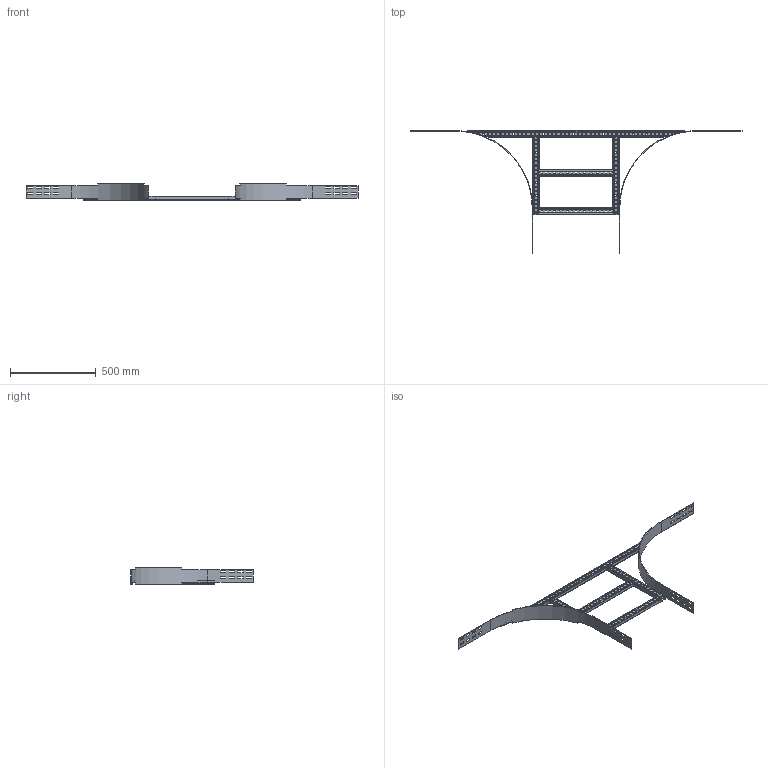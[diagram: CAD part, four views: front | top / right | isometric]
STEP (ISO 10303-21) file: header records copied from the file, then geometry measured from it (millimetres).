
FILE_DESCRIPTION(('Creo Elements/Direct Modeling STEP Export'),'2;1');
FILE_NAME('WPBP10-50-45.stp','2016-06-03T11:48:53',(''),(''),'PTC Creo Elements/Direct Modeling STEP processor for AP214 (Solid Model)','PTC Creo Elements/Direct Modeling 19.0C 15-Aug-2015 (C) Parametric Technology GmbH','');
FILE_SCHEMA(('AUTOMOTIVE_DESIGN { 1 0 10303 214 1 1 1 1 }'));
Length unit declared in the file: millimetre
Products named in the file (5): WPAAIG_100-450; WPAASP2; WPKS50.1; WPAASP1_50; WPBP10-50-45
Assembly tree (7 placements, depth 2):
  WPBP10-50-45
    WPAASP1_50
    WPAASP2  x2
    WPKS50.1  x2
    WPAAIG_100-450  x2
Bounding box: 1935 x 715 x 95 mm (x, y, z)
Volume: 999779.8 mm3; surface area: 992096.8 mm2
Topology: 7 solids, 7 shells, 845 faces, 2493 edges, 1662 vertices
Faces by surface type: plane 513, cylinder 332
Entity records: 18602 total; most frequent: ORIENTED_EDGE 3210, CARTESIAN_POINT 3196, DIRECTION 3121, EDGE_CURVE 1605, VECTOR 1131, LINE 1131, VERTEX_POINT 1070, AXIS2_PLACEMENT_3D 995
